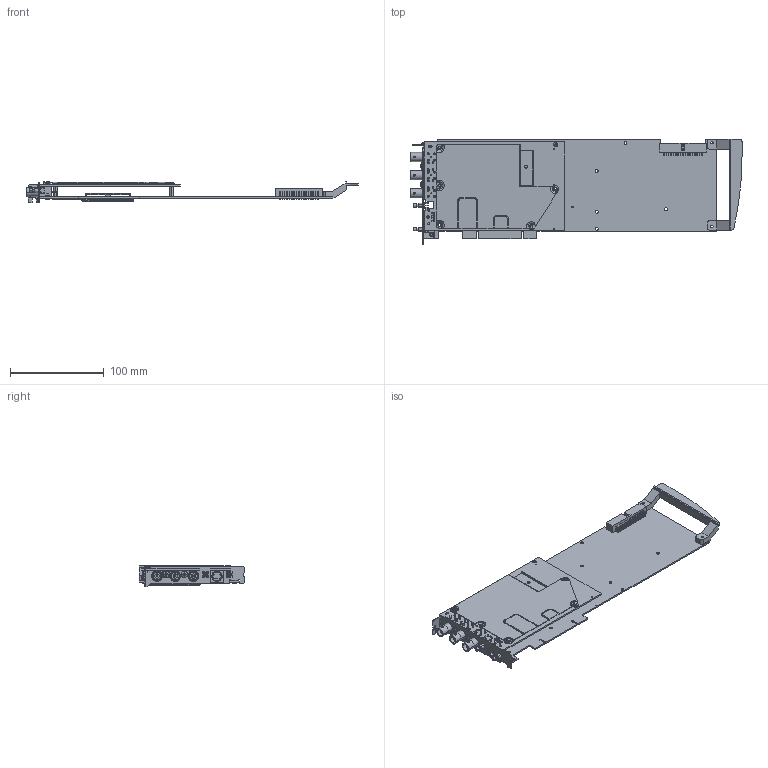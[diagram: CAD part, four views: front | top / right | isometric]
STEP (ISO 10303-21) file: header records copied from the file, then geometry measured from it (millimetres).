
FILE_DESCRIPTION((''),'2;1');
FILE_NAME('CD_PCI-512X','2009-12-15T',('jjorden'),(''),'PRO/ENGINEER BY PARAMETRIC TECHNOLOGY CORPORATION, 2006080','PRO/ENGINEER BY PARAMETRIC TECHNOLOGY CORPORATION, 2006080','');
FILE_SCHEMA(('CONFIG_CONTROL_DESIGN'));
Products named in the file (1): CD_PCI-512X
Bounding box: 354.53 x 113.03 x 22.6 mm (x, y, z)
Volume: 98378.9 mm3; surface area: 142274.6 mm2
Topology: 3 solids, 3 shells, 2211 faces, 5930 edges, 3735 vertices
Faces by surface type: plane 1208, cylinder 804, bspline 121, torus 46, cone 18, sphere 14
Entity records: 75686 total; most frequent: CARTESIAN_POINT 19582, ORIENTED_EDGE 11660, DIRECTION 11429, EDGE_CURVE 5830, AXIS2_PLACEMENT_3D 3888, VERTEX_POINT 3830, VECTOR 3653, LINE 3653
